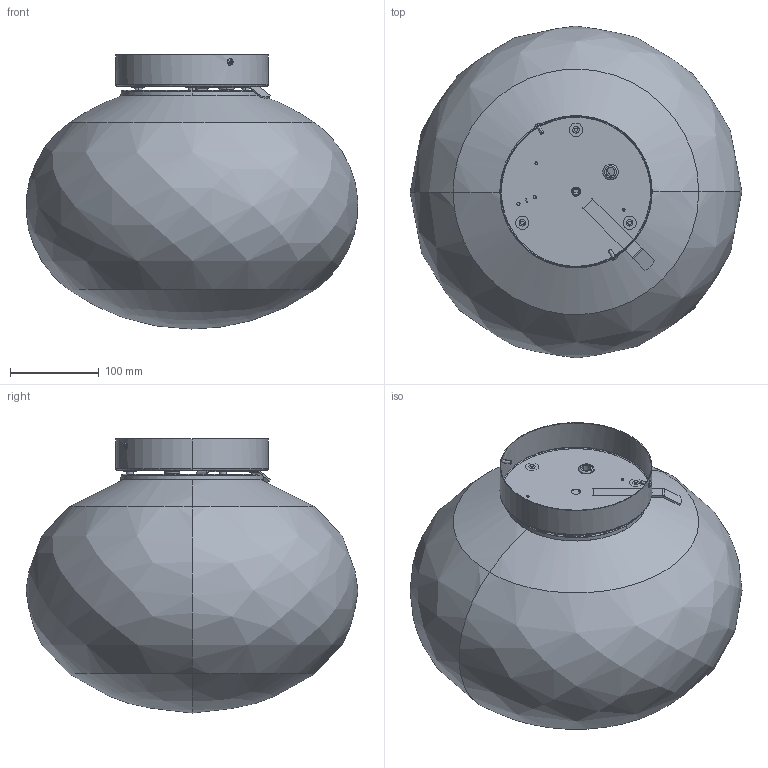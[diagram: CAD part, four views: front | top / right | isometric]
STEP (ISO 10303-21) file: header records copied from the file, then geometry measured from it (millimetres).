
FILE_DESCRIPTION(/* description */ (''),/* implementation_level */ '2;1');
FILE_NAME(/* name */ 'P065__.037.0402',/* time_stamp */ '2024-08-30T17:03:28+02:00',/* author */ (''),/* organization */ (''),/* preprocessor_version */ 'ST-DEVELOPER v16.5',/* originating_system */ '',/* authorisation */ '');
FILE_SCHEMA (('AUTOMOTIVE_DESIGN'));
Length unit declared in the file: millimetre
Products named in the file (1): Document
Bounding box: 374.64 x 375 x 309.58 mm (x, y, z)
Volume: 1117278.9 mm3; surface area: 858761.3 mm2
Topology: 27 solids, 27 shells, 1008 faces, 2379 edges, 1393 vertices
Faces by surface type: bspline 698, plane 310
Entity records: 63613 total; most frequent: CARTESIAN_POINT 49959, ORIENTED_EDGE 4628, EDGE_CURVE 2314, VERTEX_POINT 1393, EDGE_LOOP 1139, ADVANCED_FACE 1008, FACE_OUTER_BOUND 1008, B_SPLINE_CURVE_WITH_KNOTS 998
